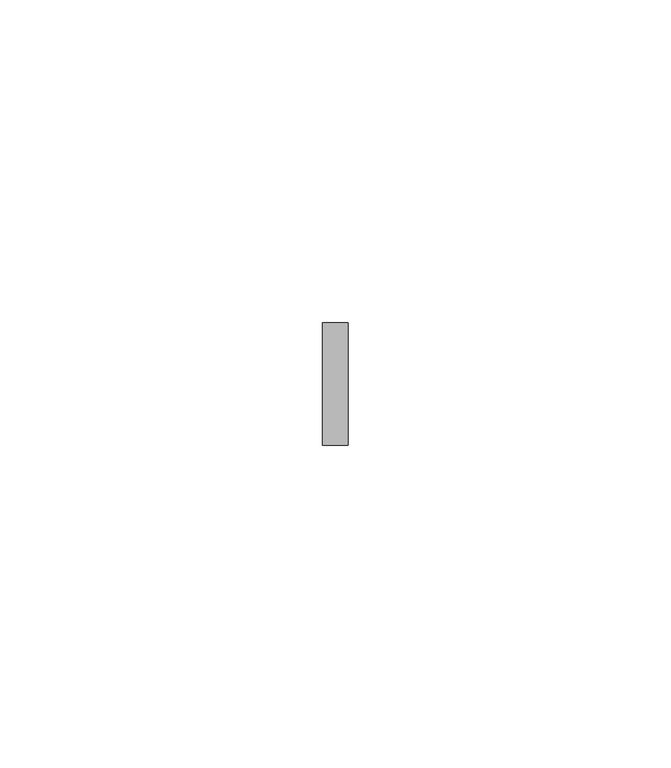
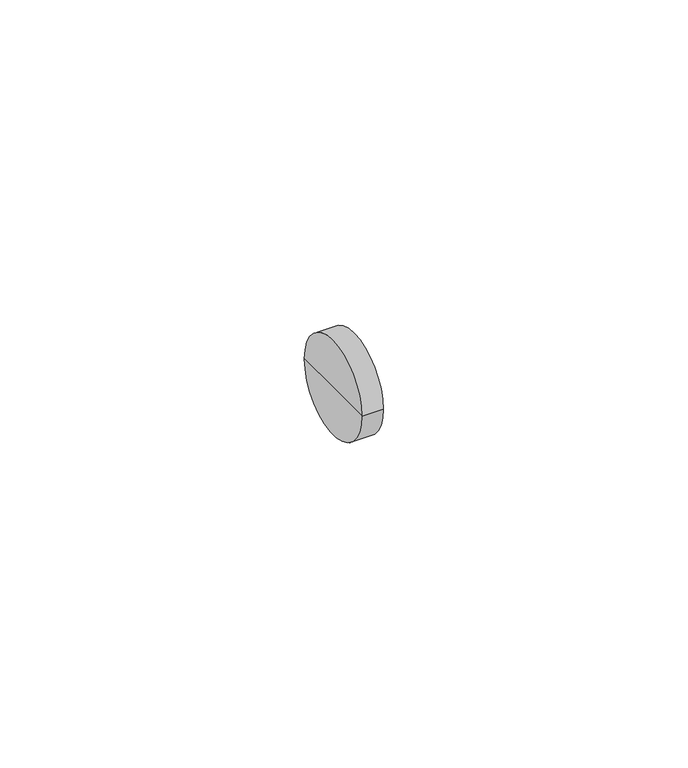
"""IFC4 building model written with IfcOpenShell, lengths in millimetres: pipe fitting geometry, KAN-therm Push korek mosiężny : KAN-therm Push korek mosiężny."""

from ifc_helpers import new_model, si_unit, frame, origin, place, context, project, spatial, circle_curve, source, transform, mapped, element, save
from ifc_brep_helpers import plane_surface, cylinder_surface, advanced_brep


def pipe_fitting_50b3f37e(model_context):
    return source(origin(), model_context, "Body", "AdvancedBrep", [
        advanced_brep(
        [(0.0, -9.5, 0.0), (0.0, 9.5, 0.0), (4.0, 9.5, 0.0), (4.0, -9.5, 0.0), (0.0, 0.0, 0.0), (4.0, 0.0, 0.0)],
        [
            (0, 1, circle_curve(frame((0.0, 0.0, 0.0), z_axis=(1.0, 0.0, 0.0), x_axis=(0.0, 1.0, 0.0)), 9.5)),
            (1, 2),
            (2, 3, circle_curve(frame((4.0, 0.0, 0.0), z_axis=(-1.0, 0.0, 0.0), x_axis=(0.0, 1.0, 0.0)), 9.5)),
            (3, 0),
            (1, 0, circle_curve(frame((0.0, 0.0, 0.0), z_axis=(1.0, 0.0, 0.0), x_axis=(0.0, 1.0, 0.0)), 9.5)),
            (3, 2, circle_curve(frame((4.0, 0.0, 0.0), z_axis=(-1.0, 0.0, 0.0), x_axis=(0.0, 1.0, 0.0)), 9.5)),
            (4, 1),
            (0, 4),
            (2, 5),
            (5, 3),
        ],
        [
            cylinder_surface(frame((2000.0, 0.0, 0.0), z_axis=(-1.0, 0.0, 0.0), x_axis=(0.0, 1.0, 0.0)), 9.5),
            plane_surface(frame((0.0, 0.0, 0.0), z_axis=(-1.0, 0.0, 0.0), x_axis=(0.0, 1.0, 0.0))),
            plane_surface(frame((4.0, 0.0, 0.0), z_axis=(1.0, 0.0, 0.0), x_axis=(0.0, 1.0, 0.0))),
        ],
        [
            (0, [[1, 2, 3, 4]]),
            (0, [[5, -4, 6, -2]]),
            (1, [[7, -1, 8]]),
            (1, [[-8, -5, -7]]),
            (2, [[-3, 9, 10]]),
            (2, [[-6, -10, -9]]),
        ],
    ),
    ])


if __name__ == "__main__":
    model = new_model("IFC4")
    model_context = context("Model", 3, world=origin())
    ifc_project = project(units=[si_unit("LENGTHUNIT", "METRE", prefix="MILLI")], contexts=[model_context])
    site = spatial("IfcSite", under=ifc_project)
    building = spatial("IfcBuilding", under=site)
    placement = place(None, origin())
    pipe_fitting_shape = pipe_fitting_50b3f37e(model_context)
    element("IfcPipeFitting", 1, ObjectType="KAN-therm Push korek mosiężny : KAN-therm Push korek mosiężny", at=placement, inside=building, context=model_context, shape_type="MappedRepresentation", body=[
        mapped(pipe_fitting_shape, transform((0.0, 0.0, 0.0), x_axis=(1.0, 0.0, 0.0), y_axis=(0.0, 1.0, 0.0), z_axis=(0.0, 0.0, 1.0))),
    ])
    save(model, "model.ifc")
